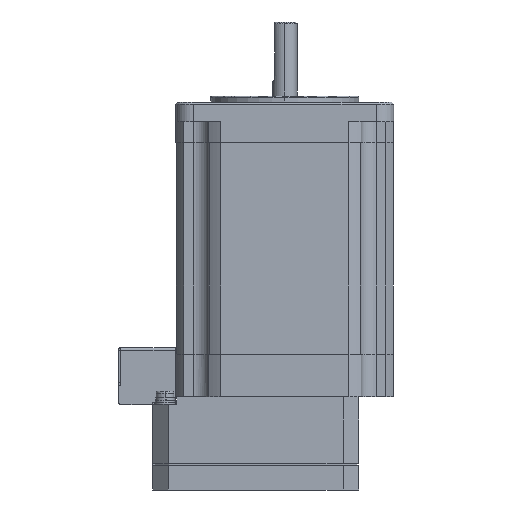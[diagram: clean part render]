
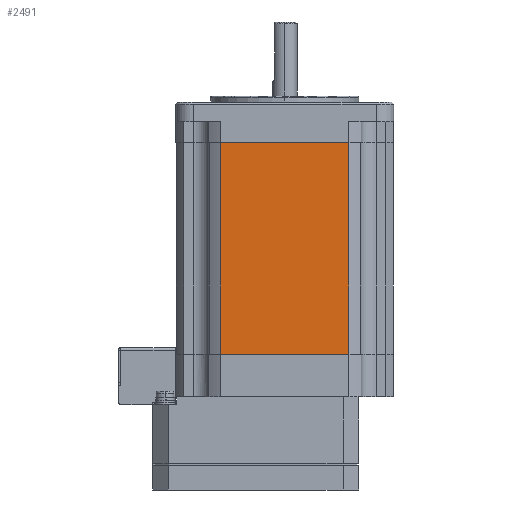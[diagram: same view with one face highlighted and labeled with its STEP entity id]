
A CAD part, left-side view. The second image highlights one B-rep face of the part: STEP entity #2491.
In plain terms, the highlighted planar face has unit normal (-1, 0, 0).
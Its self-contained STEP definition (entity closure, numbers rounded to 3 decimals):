
#750 = ORIENTED_EDGE ( 'NONE', *, *, #1858, .F. ) ;
#752 = ORIENTED_EDGE ( 'NONE', *, *, #1595, .F. ) ;
#754 = ORIENTED_EDGE ( 'NONE', *, *, #1860, .T. ) ;
#756 = ORIENTED_EDGE ( 'NONE', *, *, #1859, .T. ) ;
#1595 = EDGE_CURVE ( 'NONE', #9153, #9154, #13039, .T. ) ;
#1858 = EDGE_CURVE ( 'NONE', #26502, #9153, #13837, .T. ) ;
#1859 = EDGE_CURVE ( 'NONE', #26502, #26495, #13842, .T. ) ;
#1860 = EDGE_CURVE ( 'NONE', #26495, #9154, #13836, .T. ) ;
#2491 = ADVANCED_FACE ( 'NONE', ( #16458 ), #16459, .F. ) ;
#5776 = VECTOR ( 'NONE', #13050, 1000. ) ;
#7077 = EDGE_LOOP ( 'NONE', ( #756, #754, #752, #750 ) ) ;
#9153 = VERTEX_POINT ( 'NONE', #26977 ) ;
#9154 = VERTEX_POINT ( 'NONE', #26978 ) ;
#13038 = CARTESIAN_POINT ( 'NONE',  ( -27.9, 0., -10.45 ) ) ;
#13039 = LINE ( 'NONE', #13038, #5776 ) ;
#13050 = DIRECTION ( 'NONE',  ( 0., -1., 0. ) ) ;
#13831 = CARTESIAN_POINT ( 'NONE',  ( -27.9, 16.473, -37.65 ) ) ;
#13836 = LINE ( 'NONE', #13846, #28431 ) ;
#13837 = LINE ( 'NONE', #13831, #28429 ) ;
#13841 = DIRECTION ( 'NONE',  ( 0., 0., 1. ) ) ;
#13842 = LINE ( 'NONE', #13844, #28433 ) ;
#13844 = CARTESIAN_POINT ( 'NONE',  ( -27.9, 0., -64.85 ) ) ;
#13845 = DIRECTION ( 'NONE',  ( 0., -1., 0. ) ) ;
#13846 = CARTESIAN_POINT ( 'NONE',  ( -27.9, -16.473, -37.65 ) ) ;
#13847 = DIRECTION ( 'NONE',  ( 0., 0., 1. ) ) ;
#16451 = CARTESIAN_POINT ( 'NONE',  ( -27.9, -16.473, -64.85 ) ) ;
#16458 = FACE_OUTER_BOUND ( 'NONE', #7077, .T. ) ;
#16459 = PLANE ( 'NONE',  #17288 ) ;
#16462 = DIRECTION ( 'NONE',  ( 1., 0., 0. ) ) ;
#16463 = DIRECTION ( 'NONE',  ( 0., 1., 0. ) ) ;
#17288 = AXIS2_PLACEMENT_3D ( 'NONE', #16451, #16462, #16463 ) ;
#26495 = VERTEX_POINT ( 'NONE', #27547 ) ;
#26502 = VERTEX_POINT ( 'NONE', #27554 ) ;
#26977 = CARTESIAN_POINT ( 'NONE',  ( -27.9, 16.473, -10.45 ) ) ;
#26978 = CARTESIAN_POINT ( 'NONE',  ( -27.9, -16.473, -10.45 ) ) ;
#27547 = CARTESIAN_POINT ( 'NONE',  ( -27.9, -16.473, -64.85 ) ) ;
#27554 = CARTESIAN_POINT ( 'NONE',  ( -27.9, 16.473, -64.85 ) ) ;
#28429 = VECTOR ( 'NONE', #13841, 1000. ) ;
#28431 = VECTOR ( 'NONE', #13847, 1000. ) ;
#28433 = VECTOR ( 'NONE', #13845, 1000. ) ;
